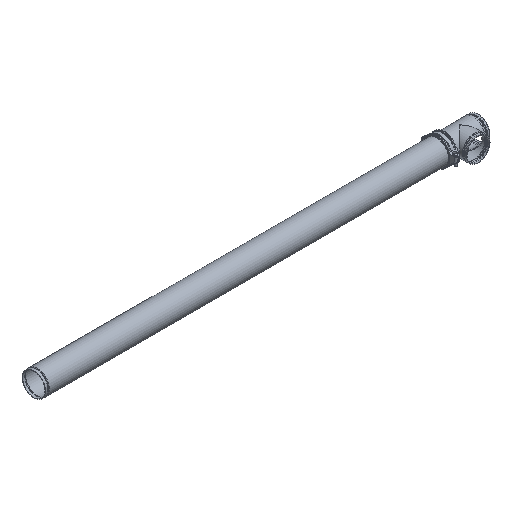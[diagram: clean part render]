
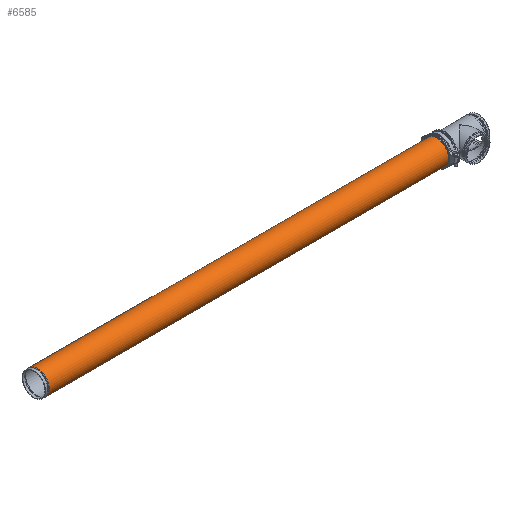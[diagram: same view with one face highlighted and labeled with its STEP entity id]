
A CAD part, isometric view. The second image highlights one B-rep face of the part: STEP entity #6585.
In plain terms, the highlighted cylindrical face has radius 177.8 mm (diameter 355.6 mm), a full revolution.
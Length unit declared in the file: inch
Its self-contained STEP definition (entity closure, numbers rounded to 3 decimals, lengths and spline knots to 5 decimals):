
#310=LINE('',#9818,#690);
#690=VECTOR('',#7874,7.);
#1069=CYLINDRICAL_SURFACE('',#7047,7.);
#1261=FACE_OUTER_BOUND('',#1603,.T.);
#1603=EDGE_LOOP('',(#4145,#4146,#4147,#4148,#4149,#4150));
#1979=CIRCLE('',#7045,7.);
#1980=CIRCLE('',#7046,7.);
#1981=CIRCLE('',#7048,7.);
#1982=CIRCLE('',#7049,7.);
#2408=VERTEX_POINT('',#9808);
#2409=VERTEX_POINT('',#9809);
#2410=VERTEX_POINT('',#9814);
#2411=VERTEX_POINT('',#9815);
#3109=EDGE_CURVE('',#2408,#2409,#1979,.T.);
#3110=EDGE_CURVE('',#2409,#2408,#1980,.T.);
#3112=EDGE_CURVE('',#2410,#2411,#1981,.T.);
#3113=EDGE_CURVE('',#2411,#2410,#1982,.T.);
#3114=EDGE_CURVE('',#2411,#2409,#310,.T.);
#4145=ORIENTED_EDGE('',*,*,#3112,.F.);
#4146=ORIENTED_EDGE('',*,*,#3113,.F.);
#4147=ORIENTED_EDGE('',*,*,#3114,.T.);
#4148=ORIENTED_EDGE('',*,*,#3110,.T.);
#4149=ORIENTED_EDGE('',*,*,#3109,.T.);
#4150=ORIENTED_EDGE('',*,*,#3114,.F.);
#6585=ADVANCED_FACE('',(#1261),#1069,.T.);
#7045=AXIS2_PLACEMENT_3D('',#9810,#7863,#7864);
#7046=AXIS2_PLACEMENT_3D('',#9811,#7865,#7866);
#7047=AXIS2_PLACEMENT_3D('',#9813,#7868,#7869);
#7048=AXIS2_PLACEMENT_3D('',#9816,#7870,#7871);
#7049=AXIS2_PLACEMENT_3D('',#9817,#7872,#7873);
#7863=DIRECTION('center_axis',(1.,0.,0.));
#7864=DIRECTION('ref_axis',(0.,1.,0.));
#7865=DIRECTION('center_axis',(1.,0.,0.));
#7866=DIRECTION('ref_axis',(0.,1.,0.));
#7868=DIRECTION('center_axis',(1.,0.,0.));
#7869=DIRECTION('ref_axis',(0.,1.,0.));
#7870=DIRECTION('center_axis',(1.,0.,0.));
#7871=DIRECTION('ref_axis',(0.,1.,0.));
#7872=DIRECTION('center_axis',(1.,0.,0.));
#7873=DIRECTION('ref_axis',(0.,1.,0.));
#7874=DIRECTION('',(-1.,0.,0.));
#9808=CARTESIAN_POINT('',(-117.88023,7.,0.));
#9809=CARTESIAN_POINT('',(-117.88023,-7.,0.));
#9810=CARTESIAN_POINT('Origin',(-117.88023,0.,
0.));
#9811=CARTESIAN_POINT('Origin',(-117.88023,0.,
0.));
#9813=CARTESIAN_POINT('Origin',(0.,0.,
0.));
#9814=CARTESIAN_POINT('',(117.88023,7.,0.));
#9815=CARTESIAN_POINT('',(117.88023,-7.,0.));
#9816=CARTESIAN_POINT('Origin',(117.88023,0.,0.));
#9817=CARTESIAN_POINT('Origin',(117.88023,0.,0.));
#9818=CARTESIAN_POINT('',(0.,-7.,0.));
